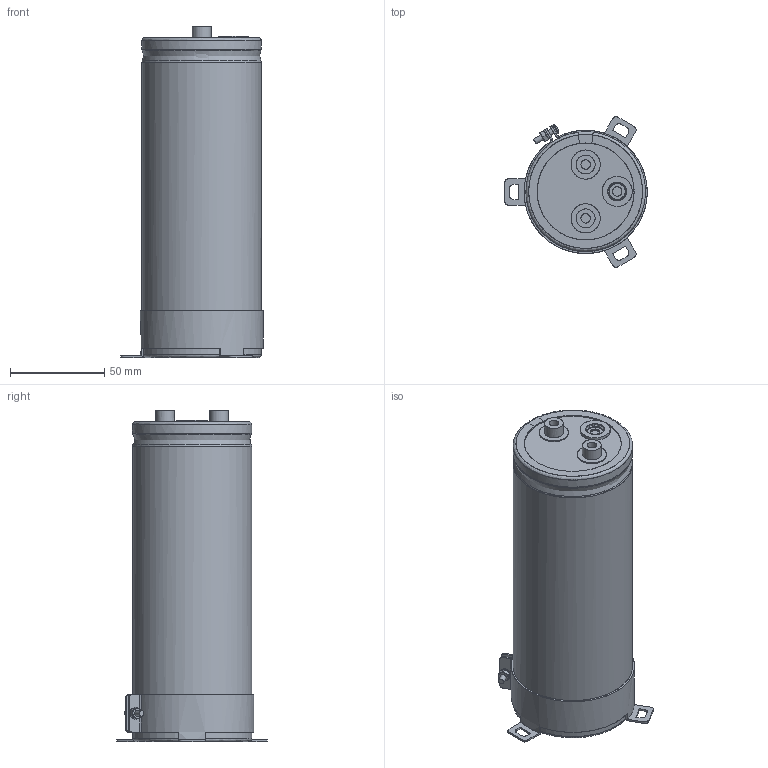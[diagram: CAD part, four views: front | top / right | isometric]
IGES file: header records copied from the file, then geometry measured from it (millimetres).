
Start section: JAMA-IS VERSION  1.0
Bounding box: 75.75 x 80.01 x 176 mm (x, y, z)
Surface area: 122600.1 mm2 (no closed solid volume)
Topology: 0 solids, 0 shells, 259 faces, 4436 edges, 4409 vertices
Faces by surface type: bspline 259
